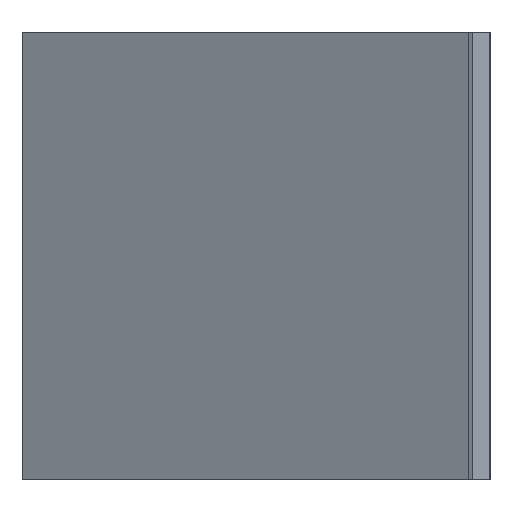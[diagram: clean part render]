
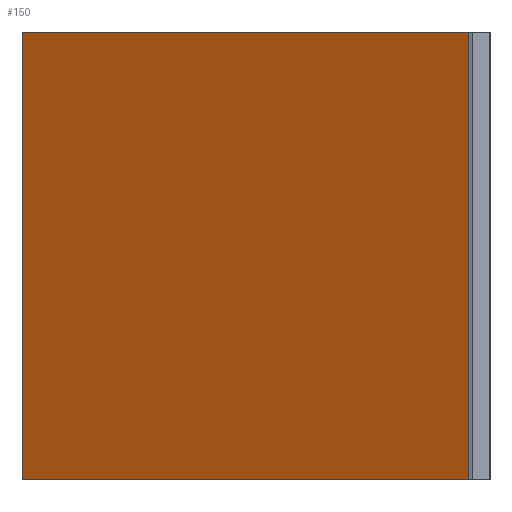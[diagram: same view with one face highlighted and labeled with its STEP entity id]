
A CAD part, left-side view. The second image highlights one B-rep face of the part: STEP entity #150.
In plain terms, the highlighted planar face has unit normal (0.88, -0.474, 0).
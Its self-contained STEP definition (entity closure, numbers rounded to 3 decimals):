
#98=CARTESIAN_POINT('Vertex',(20.,0.,0.)) ;
#101=CARTESIAN_POINT('Line Origine',(20.,0.,52.)) ;
#105=CARTESIAN_POINT('Vertex',(20.,0.,104.)) ;
#120=CARTESIAN_POINT('Axis2P3D Location',(20.,0.,0.)) ;
#125=CARTESIAN_POINT('Line Origine',(48.,52.,0.)) ;
#129=CARTESIAN_POINT('Vertex',(76.,104.,0.)) ;
#132=CARTESIAN_POINT('Line Origine',(76.,104.,52.)) ;
#136=CARTESIAN_POINT('Vertex',(76.,104.,104.)) ;
#139=CARTESIAN_POINT('Line Origine',(48.,52.,104.)) ;
#102=DIRECTION('Vector Direction',(0.,0.,1.)) ;
#121=DIRECTION('Axis2P3D Direction',(0.88,-0.474,0.)) ;
#122=DIRECTION('Axis2P3D XDirection',(0.474,0.88,0.)) ;
#126=DIRECTION('Vector Direction',(0.474,0.88,0.)) ;
#133=DIRECTION('Vector Direction',(0.,0.,1.)) ;
#140=DIRECTION('Vector Direction',(0.474,0.88,0.)) ;
#123=AXIS2_PLACEMENT_3D('Plane Axis2P3D',#120,#121,#122) ;
#145=ORIENTED_EDGE('',*,*,#107,.F.) ;
#146=ORIENTED_EDGE('',*,*,#131,.T.) ;
#147=ORIENTED_EDGE('',*,*,#138,.T.) ;
#148=ORIENTED_EDGE('',*,*,#143,.F.) ;
#103=VECTOR('Line Direction',#102,1.) ;
#127=VECTOR('Line Direction',#126,1.) ;
#134=VECTOR('Line Direction',#133,1.) ;
#141=VECTOR('Line Direction',#140,1.) ;
#150=ADVANCED_FACE('Extrude.1',(#149),#124,.T.) ;
#107=EDGE_CURVE('',#99,#106,#104,.T.) ;
#131=EDGE_CURVE('',#99,#130,#128,.T.) ;
#138=EDGE_CURVE('',#130,#137,#135,.T.) ;
#143=EDGE_CURVE('',#106,#137,#142,.T.) ;
#144=EDGE_LOOP('',(#145,#146,#147,#148)) ;
#149=FACE_OUTER_BOUND('',#144,.T.) ;
#104=LINE('Line',#101,#103) ;
#128=LINE('Line',#125,#127) ;
#135=LINE('Line',#132,#134) ;
#142=LINE('Line',#139,#141) ;
#124=PLANE('',#123) ;
#99=VERTEX_POINT('',#98) ;
#106=VERTEX_POINT('',#105) ;
#130=VERTEX_POINT('',#129) ;
#137=VERTEX_POINT('',#136) ;
